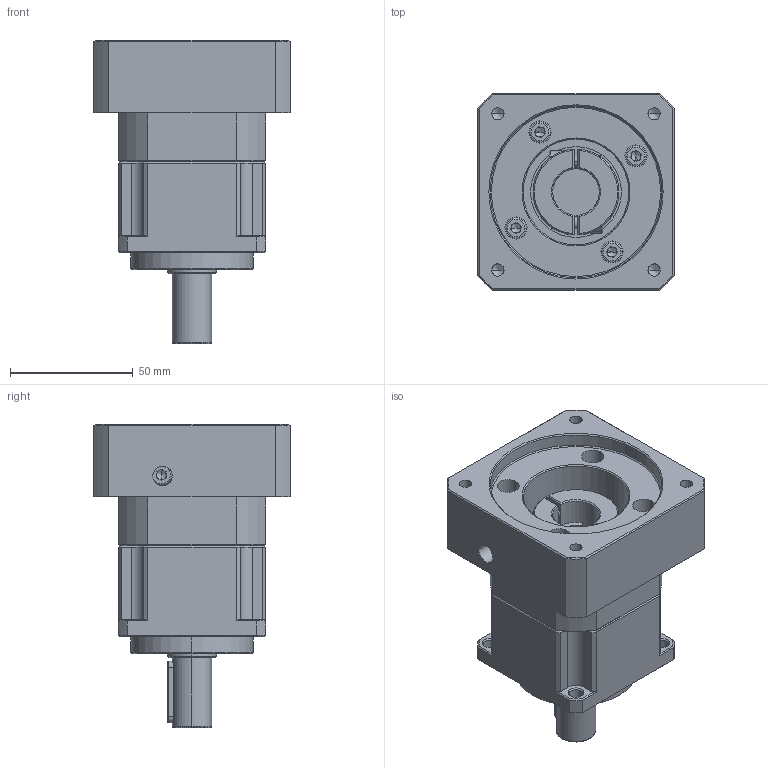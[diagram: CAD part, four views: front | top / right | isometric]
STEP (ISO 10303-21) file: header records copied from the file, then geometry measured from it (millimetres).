
FILE_DESCRIPTION (( 'STEP AP214' ), '1' );
FILE_NAME ('ZPB060-D16-L1-P1-19-70-90-M6.step', '2024-04-23T16:10:01', ( 'Windows 蚚誧' ), ( 'Organization' ), 'SwSTEP 2.0', 'SolidWorks 2016', '' );
FILE_SCHEMA (( 'AUTOMOTIVE_DESIGN' ));
Length unit declared in the file: millimetre
Products named in the file (1): ZPB060-D16-L1-P1-19-70-90-M6
Bounding box: 80 x 80 x 123.5 mm (x, y, z)
Volume: 312412.9 mm3; surface area: 70399.6 mm2
Topology: 9 solids, 10 shells, 1715 faces, 4631 edges, 3007 vertices
Faces by surface type: plane 988, bspline 373, cylinder 212, cone 130, torus 12
Entity records: 90545 total; most frequent: CARTESIAN_POINT 31060, ORIENTED_EDGE 9186, DIRECTION 6967, EDGE_CURVE 4593, LINE 3155, VECTOR 3155, VERTEX_POINT 3007, AXIS2_PLACEMENT_3D 1906
